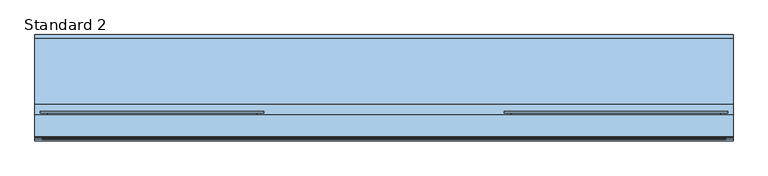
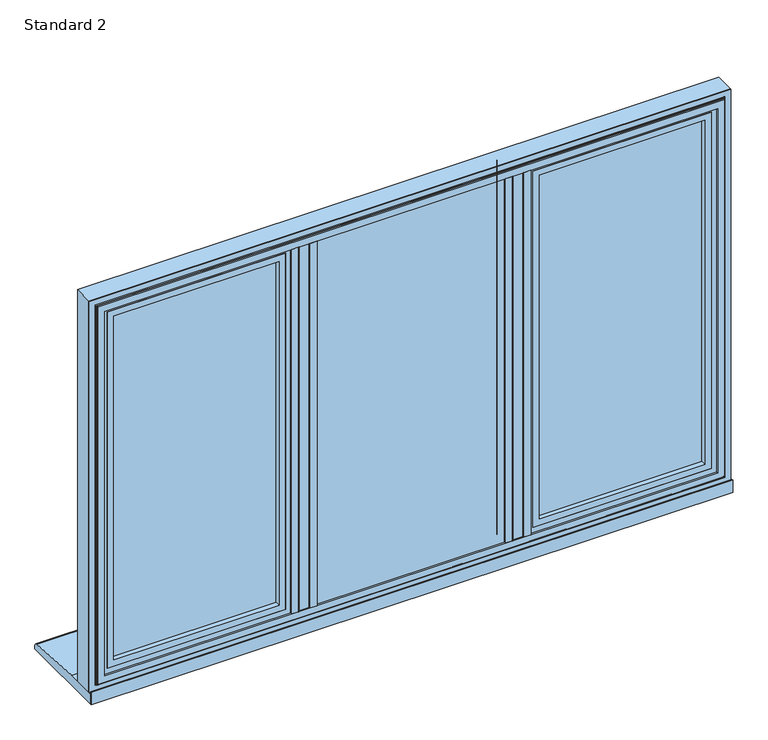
"""IFC4 building model written with IfcOpenShell, lengths in millimetres: window geometry, SMARTS_AlithermHeritage : Standard 2."""

from ifc_helpers import new_model, si_unit, point, frame, frame_2d, origin, place, context, project, spatial, polyline, circle_curve, ellipse_curve, trimmed, segment, composite_curve, outline, extrude, faceted_brep, source, transform, mapped, element, save
from ifc_brep_helpers import plane_surface, cylinder_surface, revolved_surface, advanced_brep


def standard_2_dcb44ffc(model_context):
    return source(origin(), model_context, "Body", "SolidModel", [
        extrude(outline(polyline([(-260.3608122, 95.2798432), (-232.9725211, 95.2798432), (-232.9725211, 47.279476), (-260.3608122, 47.279476), (-260.3608122, 95.2798432)])), frame((0.0, 0.0, 652.6941456), z_axis=(0.0, 0.0, 1.0), x_axis=(1.0, 0.0, 0.0)), (0.0, 0.0, 1.0), 919.6117089),
        extrude(outline(composite_curve([segment(polyline([(-275.6666667, 47.279476), (-217.6666667, 47.279476), (-217.6666667, 43.2798432), (-233.6666667, 43.2798432)]), True, "CONTINUOUS"), segment(trimmed(circle_curve(frame_2d((-233.6666667, 44.2798432)), 1.0), [point((-233.6666667, 43.2798432))], [point((-234.6666667, 44.2798432))], False, "CARTESIAN"), True, "CONTINUOUS"), segment(polyline([(-234.6666667, 44.2798432), (-234.6666667, 45.7798432), (-258.6666667, 45.7798432), (-258.6666667, 44.2798432)]), True, "CONTINUOUS"), segment(trimmed(circle_curve(frame_2d((-259.6666667, 44.2798432)), 1.0), [point((-258.6666667, 44.2798432))], [point((-259.6666667, 43.2798432))], False, "CARTESIAN"), True, "CONTINUOUS"), segment(polyline([(-259.6666667, 43.2798432), (-275.6666667, 43.2798432), (-275.6666667, 47.279476)]), True, "CONTINUOUS")], self_intersect=False)), frame((0.0, 0.0, 668.0), z_axis=(0.0, 0.0, 1.0), x_axis=(1.0, 0.0, 0.0)), (0.0, 0.0, 1.0), 889.0),
        extrude(outline(polyline([(232.9725211, 95.2798432), (260.3608122, 95.2798432), (260.3608122, 47.279476), (232.9725211, 47.279476), (232.9725211, 95.2798432)])), frame((0.0, 0.0, 652.6941456), z_axis=(0.0, 0.0, 1.0), x_axis=(1.0, 0.0, 0.0)), (0.0, 0.0, 1.0), 919.6117089),
        extrude(outline(composite_curve([segment(polyline([(217.6666667, 47.279476), (275.6666667, 47.279476), (275.6666667, 43.2798432), (259.6666667, 43.2798432)]), True, "CONTINUOUS"), segment(trimmed(circle_curve(frame_2d((259.6666667, 44.2798432)), 1.0), [point((259.6666667, 43.2798432))], [point((258.6666667, 44.2798432))], False, "CARTESIAN"), True, "CONTINUOUS"), segment(polyline([(258.6666667, 44.2798432), (258.6666667, 45.7798432), (234.6666667, 45.7798432), (234.6666667, 44.2798432)]), True, "CONTINUOUS"), segment(trimmed(circle_curve(frame_2d((233.6666667, 44.2798432)), 1.0), [point((234.6666667, 44.2798432))], [point((233.6666667, 43.2798432))], False, "CARTESIAN"), True, "CONTINUOUS"), segment(polyline([(233.6666667, 43.2798432), (217.6666667, 43.2798432), (217.6666667, 47.279476)]), True, "CONTINUOUS")], self_intersect=False)), frame((0.0, 0.0, 668.0), z_axis=(0.0, 0.0, 1.0), x_axis=(1.0, 0.0, 0.0)), (0.0, 0.0, 1.0), 889.0),
        extrude(outline(polyline([(-693.5, 89.2798432), (-289.1666667, 89.2798432), (-289.1666667, 85.2798432), (-693.5, 85.2798432), (-693.5, 89.2798432)])), frame((0.0, 0.0, 681.5), z_axis=(0.0, 0.0, 1.0), x_axis=(1.0, 0.0, 0.0)), (0.0, 0.0, 1.0), 862.0),
        extrude(outline(polyline([(-693.5, 69.2798432), (-289.1666667, 69.2798432), (-289.1666667, 65.2798432), (-693.5, 65.2798432), (-693.5, 69.2798432)])), frame((0.0, 0.0, 681.5), z_axis=(0.0, 0.0, 1.0), x_axis=(1.0, 0.0, 0.0)), (0.0, 0.0, 1.0), 862.0),
        extrude(outline(polyline([(1543.5, -693.5), (681.5, -693.5), (681.5, -289.1666667), (1543.5, -289.1666667), (1543.5, -693.5)]), holes=[polyline([(1533.5, -299.1666667), (691.5, -299.1666667), (691.5, -683.5), (1533.5, -683.5), (1533.5, -299.1666667)])]), frame((0.0, 69.2798432, 0.0), z_axis=(0.0, 1.0, 0.0), x_axis=(0.0, 0.0, 1.0)), (0.0, 0.0, 1.0), 16.0),
        extrude(outline(polyline([(1547.0052956, -697.0052956), (677.9947044, -697.0052956), (677.9947044, -285.661371), (1547.0052956, -285.661371), (1547.0052956, -697.0052956)]), holes=[polyline([(1532.0, -300.6666667), (693.0, -300.6666667), (693.0, -682.0), (1532.0, -682.0), (1532.0, -300.6666667)])]), frame((0.0, 51.2798432, 0.0), z_axis=(0.0, 1.0, 0.0), x_axis=(0.0, 0.0, 1.0)), (0.0, 0.0, 1.0), 11.3),
        extrude(outline(polyline([(662.3548042, -712.6451958), (662.3548042, -270.0214709), (1562.6451958, -270.0214709), (1562.6451958, -712.6451958), (662.3548042, -712.6451958)]), holes=[polyline([(1547.0, -697.0), (1547.0, -285.6666667), (678.0, -285.6666667), (678.0, -697.0), (1547.0, -697.0)])]), frame((0.0, 51.2798432, 0.0), z_axis=(0.0, 1.0, 0.0), x_axis=(0.0, 0.0, 1.0)), (0.0, 0.0, 1.0), 41.6),
        advanced_brep(
        [(-682.0, 98.0798432, 1532.0), (-682.0, 92.8798432, 1532.0), (-682.0, 92.8798432, 693.0), (-682.0, 98.0798432, 693.0), (-300.6666667, 92.8798432, 693.0), (-300.6666667, 98.0798432, 693.0), (-300.6666667, 92.8798432, 1532.0), (-300.6666667, 98.0798432, 1532.0), (-728.2, 99.2798432, 1578.2), (-728.2, 103.2798432, 1578.2), (-728.2, 103.2798432, 646.8), (-728.2, 99.2798432, 646.8), (-254.4666667, 103.2798432, 646.8), (-254.4666667, 99.2798432, 646.8), (-254.4666667, 103.2798432, 1578.2), (-254.4666667, 99.2798432, 1578.2), (-713.1467657, 99.2798432, 1563.1467657), (-269.5199009, 99.2798432, 1563.1467657), (-269.5199009, 99.2798432, 661.8532343), (-713.1467657, 99.2798432, 661.8532343), (-699.2, 103.2798432, 675.8), (-283.4666667, 103.2798432, 675.8), (-283.4666667, 103.2798432, 1549.2), (-699.2, 103.2798432, 1549.2), (-713.1467657, 92.8798432, 1563.1467657), (-713.1467657, 92.8798432, 661.8532343), (-269.5199009, 92.8798432, 661.8532343), (-269.5199009, 92.8798432, 1563.1467657), (-697.2, 101.2798432, 1547.2), (-697.2, 100.0798432, 1547.2), (-697.2, 100.0798432, 677.8), (-697.2, 101.2798432, 677.8), (-695.2, 98.0798432, 1545.2), (-695.2, 98.0798432, 679.8), (-285.4666667, 100.0798432, 677.8), (-285.4666667, 101.2798432, 677.8), (-287.4666667, 98.0798432, 679.8), (-285.4666667, 100.0798432, 1547.2), (-285.4666667, 101.2798432, 1547.2), (-287.4666667, 98.0798432, 1545.2)],
        [
            (0, 1),
            (1, 2),
            (2, 3),
            (3, 0),
            (2, 4),
            (4, 5),
            (5, 3),
            (4, 6),
            (6, 7),
            (7, 5),
            (6, 1),
            (0, 7),
            (8, 9),
            (9, 10),
            (10, 11),
            (11, 8),
            (10, 12),
            (12, 13),
            (13, 11),
            (12, 14),
            (14, 15),
            (15, 13),
            (15, 8),
            (16, 17),
            (17, 18),
            (18, 19),
            (19, 16),
            (14, 9),
            (20, 21),
            (21, 22),
            (22, 23),
            (23, 20),
            (24, 16),
            (19, 25),
            (25, 24),
            (18, 26),
            (26, 25),
            (17, 27),
            (27, 26),
            (27, 24),
            (28, 29),
            (29, 30),
            (30, 31),
            (31, 28),
            (29, 32, ellipse_curve(frame((-695.2, 100.0798432, 1545.2), z_axis=(0.7071067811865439, 0.0, 0.7071067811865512), x_axis=(0.7071067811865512, 0.0, -0.7071067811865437)), 2.8284271, 2.0)),
            (32, 33),
            (33, 30, ellipse_curve(frame((-695.2, 100.0798432, 679.8), z_axis=(0.7071067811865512, 0.0, -0.7071067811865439), x_axis=(-0.707106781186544, 0.0, -0.707106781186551)), 2.8284271, 2.0)),
            (30, 34),
            (34, 35),
            (35, 31),
            (33, 36),
            (36, 34, ellipse_curve(frame((-287.4666667, 100.0798432, 679.8), z_axis=(0.7071067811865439, 0.0, 0.7071067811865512), x_axis=(0.707106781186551, 0.0, -0.707106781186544)), 2.8284271, 2.0)),
            (34, 37),
            (37, 38),
            (38, 35),
            (36, 39),
            (39, 37, ellipse_curve(frame((-287.4666667, 100.0798432, 1545.2), z_axis=(-0.7071067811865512, 0.0, 0.7071067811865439), x_axis=(0.707106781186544, 0.0, 0.707106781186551)), 2.8284271, 2.0)),
            (32, 39),
            (37, 29),
            (28, 38),
            (23, 28, ellipse_curve(frame((-699.2, 101.2798432, 1549.2), z_axis=(-0.7071067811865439, 0.0, -0.7071067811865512), x_axis=(-0.7071067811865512, 0.0, 0.7071067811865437)), 2.8284271, 2.0)),
            (31, 20, ellipse_curve(frame((-699.2, 101.2798432, 675.8), z_axis=(-0.7071067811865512, 0.0, 0.7071067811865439), x_axis=(0.707106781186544, 0.0, 0.707106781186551)), 2.8284271, 2.0)),
            (35, 21, ellipse_curve(frame((-283.4666667, 101.2798432, 675.8), z_axis=(-0.7071067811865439, 0.0, -0.7071067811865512), x_axis=(-0.707106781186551, 0.0, 0.707106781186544)), 2.8284271, 2.0)),
            (38, 22, ellipse_curve(frame((-283.4666667, 101.2798432, 1549.2), z_axis=(0.7071067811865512, 0.0, -0.7071067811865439), x_axis=(-0.707106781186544, 0.0, -0.707106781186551)), 2.8284271, 2.0)),
        ],
        [
            plane_surface(frame((-682.0, 92.8798432, 1532.0), z_axis=(1.0, 0.0, 0.0), x_axis=(0.0, 0.0, -1.0))),
            plane_surface(frame((-682.0, 92.8798432, 693.0), z_axis=(0.0, 0.0, 1.0), x_axis=(1.0, 0.0, 0.0))),
            plane_surface(frame((-300.6666667, 92.8798432, 693.0), z_axis=(-1.0, 0.0, 0.0), x_axis=(0.0, 0.0, 1.0))),
            plane_surface(frame((-300.6666667, 92.8798432, 1532.0), z_axis=(0.0, 0.0, -1.0), x_axis=(-1.0, 0.0, 0.0))),
            plane_surface(frame((-728.2, 103.2798432, 1578.2), z_axis=(-1.0, 0.0, 0.0), x_axis=(0.0, 0.0, -1.0))),
            plane_surface(frame((-728.2, 103.2798432, 646.8), z_axis=(0.0, 0.0, -1.0), x_axis=(1.0, 0.0, 0.0))),
            plane_surface(frame((-254.4666667, 103.2798432, 646.8), z_axis=(1.0, 0.0, 0.0), x_axis=(0.0, 0.0, 1.0))),
            plane_surface(frame((-254.4666667, 99.2798432, 1578.2), z_axis=(0.0, -1.0, 0.0), x_axis=(-1.0, 0.0, 0.0))),
            plane_surface(frame((-254.4666667, 103.2798432, 1578.2), z_axis=(0.0, 0.0, 1.0), x_axis=(-1.0, 0.0, 0.0))),
            plane_surface(frame((-283.4666667, 103.2798432, 1549.2), z_axis=(0.0, 1.0, 0.0), x_axis=(-1.0, 0.0, 0.0))),
            plane_surface(frame((-713.1467657, 99.2798432, 1563.1467657), z_axis=(-1.0, 0.0, 0.0), x_axis=(0.0, 0.0, -1.0))),
            plane_surface(frame((-713.1467657, 99.2798432, 661.8532343), z_axis=(0.0, 0.0, -1.0), x_axis=(1.0, 0.0, 0.0))),
            plane_surface(frame((-269.5199009, 99.2798432, 661.8532343), z_axis=(1.0, 0.0, 0.0), x_axis=(0.0, 0.0, 1.0))),
            plane_surface(frame((-269.5199009, 92.8798432, 1563.1467657), z_axis=(0.0, -1.0, 0.0), x_axis=(-1.0, 0.0, 0.0))),
            plane_surface(frame((-269.5199009, 99.2798432, 1563.1467657), z_axis=(0.0, 0.0, 1.0), x_axis=(-1.0, 0.0, 0.0))),
            plane_surface(frame((-697.2, 100.0798432, 1547.2), z_axis=(1.0, 0.0, 0.0), x_axis=(0.0, 0.0, -1.0))),
            revolved_surface(polyline([(-697.2, 100.0798432, 677.8), (-697.2, 100.0798432, 1547.2)]), (-695.2, 100.0798432, 1557.0), (0.0, 0.0, -1.0)),
            plane_surface(frame((-697.2, 100.0798432, 677.8), z_axis=(0.0, 0.0, 1.0), x_axis=(1.0, 0.0, 0.0))),
            revolved_surface(polyline([(-285.4666667, 100.0798432, 677.8), (-697.2, 100.0798432, 677.8)]), (-707.0, 100.0798432, 679.8), (1.0, 0.0, 0.0)),
            plane_surface(frame((-285.4666667, 100.0798432, 677.8), z_axis=(-1.0, 0.0, 0.0), x_axis=(0.0, 0.0, 1.0))),
            revolved_surface(polyline([(-285.4666667, 100.0798432, 1547.2), (-285.4666667, 100.0798432, 677.8)]), (-287.4666667, 100.0798432, 668.0), (0.0, 0.0, 1.0)),
            plane_surface(frame((-300.6666667, 98.0798432, 1532.0), z_axis=(0.0, 1.0, 0.0), x_axis=(-1.0, 0.0, 0.0))),
            plane_surface(frame((-285.4666667, 100.0798432, 1547.2), z_axis=(0.0, 0.0, -1.0), x_axis=(-1.0, 0.0, 0.0))),
            revolved_surface(polyline([(-697.2, 100.0798432, 1547.2), (-285.4666667, 100.0798432, 1547.2)]), (-275.6666667, 100.0798432, 1545.2), (-1.0, 0.0, 0.0)),
            cylinder_surface(frame((-699.2, 101.2798432, 1557.0), z_axis=(0.0, 0.0, 1.0), x_axis=(-1.0, 0.0, 0.0)), 2.0),
            cylinder_surface(frame((-707.0, 101.2798432, 675.8), z_axis=(-1.0, 0.0, 0.0), x_axis=(0.0, 0.0, -1.0)), 2.0),
            cylinder_surface(frame((-283.4666667, 101.2798432, 668.0), z_axis=(0.0, 0.0, -1.0), x_axis=(1.0, 0.0, 0.0)), 2.0),
            cylinder_surface(frame((-275.6666667, 101.2798432, 1549.2), z_axis=(1.0, 0.0, 0.0), x_axis=(0.0, 0.0, 1.0)), 2.0),
        ],
        [
            (0, [[1, 2, 3, 4]]),
            (1, [[-3, 5, 6, 7]]),
            (2, [[-6, 8, 9, 10]]),
            (3, [[-9, 11, -1, 12]]),
            (4, [[13, 14, 15, 16]]),
            (5, [[-15, 17, 18, 19]]),
            (6, [[-18, 20, 21, 22]]),
            (7, [[-19, -22, 23, -16], [24, 25, 26, 27]]),
            (8, [[-21, 28, -13, -23]]),
            (9, [[-28, -20, -17, -14], [29, 30, 31, 32]]),
            (10, [[33, -27, 34, 35]]),
            (11, [[-34, -26, 36, 37]]),
            (12, [[-36, -25, 38, 39]]),
            (13, [[-37, -39, 40, -35], [-11, -8, -5, -2]]),
            (14, [[-38, -24, -33, -40]]),
            (15, [[41, 42, 43, 44]]),
            (16, [[45, 46, 47, -42]]),
            (17, [[-43, 48, 49, 50]]),
            (18, [[-47, 51, 52, -48]]),
            (19, [[-49, 53, 54, 55]]),
            (20, [[-52, 56, 57, -53]]),
            (21, [[58, -56, -51, -46], [-7, -10, -12, -4]]),
            (22, [[-54, 59, -41, 60]]),
            (23, [[-57, -58, -45, -59]]),
            (24, [[61, -44, 62, -32]]),
            (25, [[-62, -50, 63, -29]]),
            (26, [[-63, -55, 64, -30]]),
            (27, [[-64, -60, -61, -31]]),
        ],
    ),
        extrude(outline(polyline([(-227.6666667, 75.2798432), (227.6666667, 75.2798432), (227.6666667, 71.2798432), (-227.6666667, 71.2798432), (-227.6666667, 75.2798432)])), frame((0.0, 0.0, 658.0), z_axis=(0.0, 0.0, 1.0), x_axis=(1.0, 0.0, 0.0)), (0.0, 0.0, 1.0), 909.0),
        extrude(outline(polyline([(-227.6666667, 55.2798432), (227.6666667, 55.2798432), (227.6666667, 51.2798432), (-227.6666667, 51.2798432), (-227.6666667, 55.2798432)])), frame((0.0, 0.0, 658.0), z_axis=(0.0, 0.0, 1.0), x_axis=(1.0, 0.0, 0.0)), (0.0, 0.0, 1.0), 909.0),
        extrude(outline(polyline([(1567.0, -227.6666667), (658.0, -227.6666667), (658.0, 227.6666667), (1567.0, 227.6666667), (1567.0, -227.6666667)]), holes=[polyline([(1557.0, 217.6666667), (668.0, 217.6666667), (668.0, -217.6666667), (1557.0, -217.6666667), (1557.0, 217.6666667)])]), frame((0.0, 55.2798432, 0.0), z_axis=(0.0, 1.0, 0.0), x_axis=(0.0, 0.0, 1.0)), (0.0, 0.0, 1.0), 16.0),
        faceted_brep([(227.4815515, 95.2798432, 1566.8148849), (217.6666667, 78.2798098, 1557.0), (-217.6666667, 78.2798098, 1557.0), (-227.4815515, 95.2798432, 1566.8148849), (233.0369343, 78.2798098, 1572.3702676), (233.0369343, 95.2798432, 1572.3702676), (-233.0369343, 95.2798432, 1572.3702676), (-233.0369343, 78.2798098, 1572.3702676), (-233.0369343, 78.2798098, 652.6297324), (-233.0369343, 95.2798432, 652.6297324), (233.0369343, 95.2798432, 652.6297324), (233.0369343, 78.2798098, 652.6297324), (-227.4815515, 95.2798432, 658.1851151), (227.4815515, 95.2798432, 658.1851151), (217.6666667, 78.2798098, 668.0), (-217.6666667, 78.2798098, 668.0)], [[[0, 1, 2, 3]], [[4, 5, 6, 7]], [[8, 9, 10, 11]], [[5, 10, 9, 6], [3, 12, 13, 0]], [[7, 8, 11, 4], [1, 14, 15, 2]], [[3, 2, 15, 12]], [[7, 6, 9, 8]], [[12, 15, 14, 13]], [[13, 14, 1, 0]], [[11, 10, 5, 4]]]),
        extrude(outline(polyline([(1590.0, 740.0), (1590.0, -740.0), (635.0, -740.0), (635.0, 740.0), (1590.0, 740.0)]), holes=[polyline([(652.7000182, 722.2999818), (652.7000182, -722.2999818), (1572.2999818, -722.2999818), (1572.2999818, 722.2999818), (652.7000182, 722.2999818)])]), frame((0.0, 50.279857, 0.0), z_axis=(0.0, 1.0, 0.0), x_axis=(0.0, 0.0, 1.0)), (0.0, 0.0, 1.0), 44.9999962),
        advanced_brep(
        [(707.0, 43.2798432, 1557.0), (707.0, 47.2798432, 1557.0), (707.0, 47.2798432, 668.0), (707.0, 43.2798432, 668.0), (740.0, 50.279857, 1590.0), (740.0, 48.279857, 1590.0), (740.0, 48.279857, 635.0), (740.0, 50.279857, 635.0), (722.4999818, 43.2798432, 1572.4999818), (-722.4999818, 43.2798432, 1572.4999818), (-722.4999818, 43.2798432, 652.5000182), (722.4999818, 43.2798432, 652.5000182), (-707.0, 43.2798432, 668.0), (-707.0, 43.2798432, 1557.0), (-740.0, 50.279857, 1590.0), (-740.0, 48.279857, 1590.0), (-740.0, 50.279857, 635.0), (722.2999818, 50.279857, 1572.2999818), (-722.2999818, 50.279857, 1572.2999818), (-722.2999818, 50.279857, 652.7000182), (722.2999818, 50.279857, 652.7000182), (-707.0, 47.2798432, 1557.0), (-707.0, 47.2798432, 668.0), (-740.0, 48.279857, 635.0), (-722.2999818, 47.2798432, 1572.2999818), (722.2999818, 47.2798432, 1572.2999818), (722.2999818, 47.2798432, 652.7000182), (724.4999818, 46.779857, 650.5000182), (724.4999818, 45.2798432, 650.5000182), (-724.4999818, 45.2798432, 650.5000182), (-724.4999818, 46.779857, 650.5000182), (724.4999818, 46.779857, 1574.4999818), (724.4999818, 45.2798432, 1574.4999818), (-722.2999818, 47.2798432, 652.7000182), (-724.4999818, 45.2798432, 1574.4999818), (-724.4999818, 46.779857, 1574.4999818), (725.9999818, 48.279857, 1575.9999818), (725.9999818, 48.279857, 649.0000182), (-725.9999818, 48.279857, 649.0000182), (-725.9999818, 48.279857, 1575.9999818)],
        [
            (0, 1),
            (1, 2),
            (2, 3),
            (3, 0),
            (4, 5),
            (5, 6),
            (6, 7),
            (7, 4),
            (8, 9),
            (9, 10),
            (10, 11),
            (11, 8),
            (3, 12),
            (12, 13),
            (13, 0),
            (14, 15),
            (15, 5),
            (4, 14),
            (7, 16),
            (16, 14),
            (17, 18),
            (18, 19),
            (19, 20),
            (20, 17),
            (13, 21),
            (21, 1),
            (2, 22),
            (22, 12),
            (22, 21),
            (6, 23),
            (23, 16),
            (23, 15),
            (24, 18),
            (17, 25),
            (25, 24),
            (20, 26),
            (26, 25),
            (27, 28),
            (28, 29),
            (29, 30),
            (30, 27),
            (31, 32),
            (32, 28),
            (27, 31),
            (19, 33),
            (33, 26),
            (24, 33),
            (29, 34),
            (34, 35),
            (35, 30),
            (34, 32),
            (31, 35),
            (36, 31, ellipse_curve(frame((725.9999818, 46.779857, 1575.9999818), z_axis=(-0.7071067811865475, 0.0, 0.7071067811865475), x_axis=(-0.7071067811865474, 0.0, -0.7071067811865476)), 2.1213203, 1.5)),
            (27, 37, ellipse_curve(frame((725.9999818, 46.779857, 649.0000182), z_axis=(-0.7071067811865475, 0.0, -0.7071067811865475), x_axis=(0.7071067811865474, 0.0, -0.7071067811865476)), 2.1213203, 1.5)),
            (37, 36),
            (30, 38, ellipse_curve(frame((-725.9999818, 46.779857, 649.0000182), z_axis=(-0.7071067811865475, 0.0, 0.7071067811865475), x_axis=(-0.7071067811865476, 0.0, -0.7071067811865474)), 2.1213203, 1.5)),
            (38, 37),
            (35, 39, ellipse_curve(frame((-725.9999818, 46.779857, 1575.9999818), z_axis=(0.7071067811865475, 0.0, 0.7071067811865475), x_axis=(-0.7071067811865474, 0.0, 0.7071067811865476)), 2.1213203, 1.5)),
            (39, 38),
            (36, 39),
            (32, 8, ellipse_curve(frame((722.4999818, 45.2798432, 1572.4999818), z_axis=(0.7071067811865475, 0.0, -0.7071067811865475), x_axis=(0.7071067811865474, 0.0, 0.7071067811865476)), 2.8284271, 2.0)),
            (11, 28, ellipse_curve(frame((722.4999818, 45.2798432, 652.5000182), z_axis=(0.7071067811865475, 0.0, 0.7071067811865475), x_axis=(-0.7071067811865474, 0.0, 0.7071067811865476)), 2.8284271, 2.0)),
            (10, 29, ellipse_curve(frame((-722.4999818, 45.2798432, 652.5000182), z_axis=(0.7071067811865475, 0.0, -0.7071067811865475), x_axis=(0.7071067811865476, 0.0, 0.7071067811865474)), 2.8284271, 2.0)),
            (9, 34, ellipse_curve(frame((-722.4999818, 45.2798432, 1572.4999818), z_axis=(-0.7071067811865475, 0.0, -0.7071067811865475), x_axis=(0.7071067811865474, 0.0, -0.7071067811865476)), 2.8284271, 2.0)),
        ],
        [
            plane_surface(frame((707.0, 47.2798432, 1557.0), z_axis=(-1.0, 0.0, 0.0), x_axis=(0.0, 0.0, -1.0))),
            plane_surface(frame((740.0, 48.279857, 1590.0), z_axis=(1.0, 0.0, 0.0), x_axis=(0.0, 0.0, -1.0))),
            plane_surface(frame((-707.0, 43.2798432, 1557.0), z_axis=(0.0, -1.0, 0.0), x_axis=(1.0, 0.0, 0.0))),
            plane_surface(frame((-740.0, 48.279857, 1590.0), z_axis=(0.0, 0.0, 1.0), x_axis=(1.0, 0.0, 0.0))),
            plane_surface(frame((-740.0, 50.279857, 1590.0), z_axis=(0.0, 1.0, 0.0), x_axis=(1.0, 0.0, 0.0))),
            plane_surface(frame((-707.0, 47.2798432, 1557.0), z_axis=(0.0, 0.0, -1.0), x_axis=(1.0, 0.0, 0.0))),
            plane_surface(frame((707.0, 47.2798432, 668.0), z_axis=(0.0, 0.0, 1.0), x_axis=(-1.0, 0.0, 0.0))),
            plane_surface(frame((-707.0, 47.2798432, 668.0), z_axis=(1.0, 0.0, 0.0), x_axis=(0.0, 0.0, 1.0))),
            plane_surface(frame((740.0, 48.279857, 635.0), z_axis=(0.0, 0.0, -1.0), x_axis=(-1.0, 0.0, 0.0))),
            plane_surface(frame((-740.0, 48.279857, 635.0), z_axis=(-1.0, 0.0, 0.0), x_axis=(0.0, 0.0, 1.0))),
            plane_surface(frame((-722.2999818, 50.279857, 1572.2999818), z_axis=(0.0, 0.0, -1.0), x_axis=(1.0, 0.0, 0.0))),
            plane_surface(frame((722.2999818, 50.279857, 1572.2999818), z_axis=(-1.0, 0.0, 0.0), x_axis=(0.0, 0.0, -1.0))),
            plane_surface(frame((724.4999818, 45.2798432, 650.5000182), z_axis=(0.0, 0.0, -1.0), x_axis=(-1.0, 0.0, 0.0))),
            plane_surface(frame((724.4999818, 45.2798432, 1574.4999818), z_axis=(1.0, 0.0, 0.0), x_axis=(0.0, 0.0, -1.0))),
            plane_surface(frame((722.2999818, 50.279857, 652.7000182), z_axis=(0.0, 0.0, 1.0), x_axis=(-1.0, 0.0, 0.0))),
            plane_surface(frame((-722.2999818, 50.279857, 652.7000182), z_axis=(1.0, 0.0, 0.0), x_axis=(0.0, 0.0, 1.0))),
            plane_surface(frame((-724.4999818, 45.2798432, 650.5000182), z_axis=(-1.0, 0.0, 0.0), x_axis=(0.0, 0.0, 1.0))),
            plane_surface(frame((-722.2999818, 47.2798432, 1572.2999818), z_axis=(0.0, 1.0, 0.0), x_axis=(1.0, 0.0, 0.0))),
            plane_surface(frame((-724.4999818, 45.2798432, 1574.4999818), z_axis=(0.0, 0.0, 1.0), x_axis=(1.0, 0.0, 0.0))),
            revolved_surface(polyline([(724.4999818, 46.779857, 647.5000182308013), (724.4999818, 46.779857, 1577.4999817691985)]), (725.9999818, 46.779857, 1590.0), (0.0, 0.0, -1.0)),
            revolved_surface(polyline([(-727.4999817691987, 46.779857, 650.5000182), (727.4999817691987, 46.779857, 650.5000182)]), (740.0, 46.779857, 649.0000182), (-1.0, 0.0, 0.0)),
            revolved_surface(polyline([(-724.4999818, 46.779857, 1577.4999817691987), (-724.4999818, 46.779857, 647.5000182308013)]), (-725.9999818, 46.779857, 635.0), (0.0, 0.0, 1.0)),
            revolved_surface(polyline([(727.4999817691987, 46.779857, 1574.4999818), (-727.4999817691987, 46.779857, 1574.4999818)]), (-740.0, 46.779857, 1575.9999818), (1.0, 0.0, 0.0)),
            plane_surface(frame((-725.9999818, 48.279857, 1575.9999818), z_axis=(0.0, -1.0, 0.0), x_axis=(1.0, 0.0, 0.0))),
            cylinder_surface(frame((722.4999818, 45.2798432, 1590.0), z_axis=(0.0, 0.0, 1.0), x_axis=(-1.0, 0.0, 0.0)), 2.0),
            cylinder_surface(frame((740.0, 45.2798432, 652.5000182), z_axis=(1.0, 0.0, 0.0), x_axis=(0.0, 0.0, 1.0)), 2.0),
            cylinder_surface(frame((-722.4999818, 45.2798432, 635.0), z_axis=(0.0, 0.0, -1.0), x_axis=(1.0, 0.0, 0.0)), 2.0),
            cylinder_surface(frame((-740.0, 45.2798432, 1572.4999818), z_axis=(-1.0, 0.0, 0.0), x_axis=(0.0, 0.0, -1.0)), 2.0),
        ],
        [
            (0, [[1, 2, 3, 4]]),
            (1, [[5, 6, 7, 8]]),
            (2, [[9, 10, 11, 12], [13, 14, 15, -4]]),
            (3, [[16, 17, -5, 18]]),
            (4, [[19, 20, -18, -8], [21, 22, 23, 24]]),
            (5, [[25, 26, -1, -15]]),
            (6, [[-3, 27, 28, -13]]),
            (7, [[-28, 29, -25, -14]]),
            (8, [[-7, 30, 31, -19]]),
            (9, [[-31, 32, -16, -20]]),
            (10, [[33, -21, 34, 35]]),
            (11, [[-34, -24, 36, 37]]),
            (12, [[38, 39, 40, 41]]),
            (13, [[42, 43, -38, 44]]),
            (14, [[-36, -23, 45, 46]]),
            (15, [[-45, -22, -33, 47]]),
            (16, [[-40, 48, 49, 50]]),
            (17, [[-46, -47, -35, -37], [-26, -29, -27, -2]]),
            (18, [[-49, 51, -42, 52]]),
            (19, [[53, -44, 54, 55]]),
            (20, [[-54, -41, 56, 57]]),
            (21, [[-56, -50, 58, 59]]),
            (22, [[-58, -52, -53, 60]]),
            (23, [[-17, -32, -30, -6], [-57, -59, -60, -55]]),
            (24, [[61, -12, 62, -43]]),
            (25, [[-62, -11, 63, -39]]),
            (26, [[-63, -10, 64, -48]]),
            (27, [[-64, -9, -61, -51]]),
        ],
    ),
        extrude(outline(polyline([(289.1666667, 89.2798432), (693.5, 89.2798432), (693.5, 85.2798432), (289.1666667, 85.2798432), (289.1666667, 89.2798432)])), frame((0.0, 0.0, 681.5), z_axis=(0.0, 0.0, 1.0), x_axis=(1.0, 0.0, 0.0)), (0.0, 0.0, 1.0), 862.0),
        extrude(outline(polyline([(289.1666667, 69.2798432), (693.5, 69.2798432), (693.5, 65.2798432), (289.1666667, 65.2798432), (289.1666667, 69.2798432)])), frame((0.0, 0.0, 681.5), z_axis=(0.0, 0.0, 1.0), x_axis=(1.0, 0.0, 0.0)), (0.0, 0.0, 1.0), 862.0),
        extrude(outline(polyline([(1543.5, 289.1666667), (681.5, 289.1666667), (681.5, 693.5), (1543.5, 693.5), (1543.5, 289.1666667)]), holes=[polyline([(1533.5, 683.5), (691.5, 683.5), (691.5, 299.1666667), (1533.5, 299.1666667), (1533.5, 683.5)])]), frame((0.0, 69.2798432, 0.0), z_axis=(0.0, 1.0, 0.0), x_axis=(0.0, 0.0, 1.0)), (0.0, 0.0, 1.0), 16.0),
        extrude(outline(polyline([(1547.0052956, 285.661371), (677.9947044, 285.661371), (677.9947044, 697.0052956), (1547.0052956, 697.0052956), (1547.0052956, 285.661371)]), holes=[polyline([(1532.0, 682.0), (693.0, 682.0), (693.0, 300.6666667), (1532.0, 300.6666667), (1532.0, 682.0)])]), frame((0.0, 51.2798432, 0.0), z_axis=(0.0, 1.0, 0.0), x_axis=(0.0, 0.0, 1.0)), (0.0, 0.0, 1.0), 11.3),
        extrude(outline(polyline([(662.3548042, 270.0214709), (662.3548042, 712.6451958), (1562.6451958, 712.6451958), (1562.6451958, 270.0214709), (662.3548042, 270.0214709)]), holes=[polyline([(1547.0, 285.6666667), (1547.0, 697.0), (678.0, 697.0), (678.0, 285.6666667), (1547.0, 285.6666667)])]), frame((0.0, 51.2798432, 0.0), z_axis=(0.0, 1.0, 0.0), x_axis=(0.0, 0.0, 1.0)), (0.0, 0.0, 1.0), 41.6),
        advanced_brep(
        [(300.6666667, 98.0798432, 1532.0), (300.6666667, 92.8798432, 1532.0), (300.6666667, 92.8798432, 693.0), (300.6666667, 98.0798432, 693.0), (682.0, 92.8798432, 693.0), (682.0, 98.0798432, 693.0), (682.0, 92.8798432, 1532.0), (682.0, 98.0798432, 1532.0), (254.4666667, 99.2798432, 1578.2), (254.4666667, 103.2798432, 1578.2), (254.4666667, 103.2798432, 646.8), (254.4666667, 99.2798432, 646.8), (728.2, 103.2798432, 646.8), (728.2, 99.2798432, 646.8), (728.2, 103.2798432, 1578.2), (728.2, 99.2798432, 1578.2), (269.5199009, 99.2798432, 1563.1467657), (713.1467657, 99.2798432, 1563.1467657), (713.1467657, 99.2798432, 661.8532343), (269.5199009, 99.2798432, 661.8532343), (283.4666667, 103.2798432, 675.8), (699.2, 103.2798432, 675.8), (699.2, 103.2798432, 1549.2), (283.4666667, 103.2798432, 1549.2), (269.5199009, 92.8798432, 1563.1467657), (269.5199009, 92.8798432, 661.8532343), (713.1467657, 92.8798432, 661.8532343), (713.1467657, 92.8798432, 1563.1467657), (285.4666667, 101.2798432, 1547.2), (285.4666667, 100.0798432, 1547.2), (285.4666667, 100.0798432, 677.8), (285.4666667, 101.2798432, 677.8), (287.4666667, 98.0798432, 1545.2), (287.4666667, 98.0798432, 679.8), (697.2, 100.0798432, 677.8), (697.2, 101.2798432, 677.8), (695.2, 98.0798432, 679.8), (697.2, 100.0798432, 1547.2), (697.2, 101.2798432, 1547.2), (695.2, 98.0798432, 1545.2)],
        [
            (0, 1),
            (1, 2),
            (2, 3),
            (3, 0),
            (2, 4),
            (4, 5),
            (5, 3),
            (4, 6),
            (6, 7),
            (7, 5),
            (6, 1),
            (0, 7),
            (8, 9),
            (9, 10),
            (10, 11),
            (11, 8),
            (10, 12),
            (12, 13),
            (13, 11),
            (12, 14),
            (14, 15),
            (15, 13),
            (15, 8),
            (16, 17),
            (17, 18),
            (18, 19),
            (19, 16),
            (14, 9),
            (20, 21),
            (21, 22),
            (22, 23),
            (23, 20),
            (24, 16),
            (19, 25),
            (25, 24),
            (18, 26),
            (26, 25),
            (17, 27),
            (27, 26),
            (27, 24),
            (28, 29),
            (29, 30),
            (30, 31),
            (31, 28),
            (29, 32, ellipse_curve(frame((287.4666667, 100.0798432, 1545.2), z_axis=(0.7071067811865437, 0.0, 0.7071067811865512), x_axis=(0.7071067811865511, 0.0, -0.7071067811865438)), 2.8284271, 2.0)),
            (32, 33),
            (33, 30, ellipse_curve(frame((287.4666667, 100.0798432, 679.8), z_axis=(0.7071067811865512, 0.0, -0.7071067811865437), x_axis=(-0.7071067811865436, 0.0, -0.7071067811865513)), 2.8284271, 2.0)),
            (30, 34),
            (34, 35),
            (35, 31),
            (33, 36),
            (36, 34, ellipse_curve(frame((695.2, 100.0798432, 679.8), z_axis=(0.7071067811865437, 0.0, 0.7071067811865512), x_axis=(0.7071067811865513, 0.0, -0.7071067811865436)), 2.8284271, 2.0)),
            (34, 37),
            (37, 38),
            (38, 35),
            (36, 39),
            (39, 37, ellipse_curve(frame((695.2, 100.0798432, 1545.2), z_axis=(-0.7071067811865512, 0.0, 0.7071067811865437), x_axis=(0.7071067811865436, 0.0, 0.7071067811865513)), 2.8284271, 2.0)),
            (32, 39),
            (37, 29),
            (28, 38),
            (23, 28, ellipse_curve(frame((283.4666667, 101.2798432, 1549.2), z_axis=(-0.7071067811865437, 0.0, -0.7071067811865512), x_axis=(-0.7071067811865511, 0.0, 0.7071067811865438)), 2.8284271, 2.0)),
            (31, 20, ellipse_curve(frame((283.4666667, 101.2798432, 675.8), z_axis=(-0.7071067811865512, 0.0, 0.7071067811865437), x_axis=(0.7071067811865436, 0.0, 0.7071067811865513)), 2.8284271, 2.0)),
            (35, 21, ellipse_curve(frame((699.2, 101.2798432, 675.8), z_axis=(-0.7071067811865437, 0.0, -0.7071067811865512), x_axis=(-0.7071067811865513, 0.0, 0.7071067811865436)), 2.8284271, 2.0)),
            (38, 22, ellipse_curve(frame((699.2, 101.2798432, 1549.2), z_axis=(0.7071067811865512, 0.0, -0.7071067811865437), x_axis=(-0.7071067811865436, 0.0, -0.7071067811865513)), 2.8284271, 2.0)),
        ],
        [
            plane_surface(frame((300.6666667, 92.8798432, 1532.0), z_axis=(1.0, 0.0, 0.0), x_axis=(0.0, 0.0, -1.0))),
            plane_surface(frame((300.6666667, 92.8798432, 693.0), z_axis=(0.0, 0.0, 1.0), x_axis=(1.0, 0.0, 0.0))),
            plane_surface(frame((682.0, 92.8798432, 693.0), z_axis=(-1.0, 0.0, 0.0), x_axis=(0.0, 0.0, 1.0))),
            plane_surface(frame((682.0, 92.8798432, 1532.0), z_axis=(0.0, 0.0, -1.0), x_axis=(-1.0, 0.0, 0.0))),
            plane_surface(frame((254.4666667, 103.2798432, 1578.2), z_axis=(-1.0, 0.0, 0.0), x_axis=(0.0, 0.0, -1.0))),
            plane_surface(frame((254.4666667, 103.2798432, 646.8), z_axis=(0.0, 0.0, -1.0), x_axis=(1.0, 0.0, 0.0))),
            plane_surface(frame((728.2, 103.2798432, 646.8), z_axis=(1.0, 0.0, 0.0), x_axis=(0.0, 0.0, 1.0))),
            plane_surface(frame((728.2, 99.2798432, 1578.2), z_axis=(0.0, -1.0, 0.0), x_axis=(-1.0, 0.0, 0.0))),
            plane_surface(frame((728.2, 103.2798432, 1578.2), z_axis=(0.0, 0.0, 1.0), x_axis=(-1.0, 0.0, 0.0))),
            plane_surface(frame((699.2, 103.2798432, 1549.2), z_axis=(0.0, 1.0, 0.0), x_axis=(-1.0, 0.0, 0.0))),
            plane_surface(frame((269.5199009, 99.2798432, 1563.1467657), z_axis=(-1.0, 0.0, 0.0), x_axis=(0.0, 0.0, -1.0))),
            plane_surface(frame((269.5199009, 99.2798432, 661.8532343), z_axis=(0.0, 0.0, -1.0), x_axis=(1.0, 0.0, 0.0))),
            plane_surface(frame((713.1467657, 99.2798432, 661.8532343), z_axis=(1.0, 0.0, 0.0), x_axis=(0.0, 0.0, 1.0))),
            plane_surface(frame((713.1467657, 92.8798432, 1563.1467657), z_axis=(0.0, -1.0, 0.0), x_axis=(-1.0, 0.0, 0.0))),
            plane_surface(frame((713.1467657, 99.2798432, 1563.1467657), z_axis=(0.0, 0.0, 1.0), x_axis=(-1.0, 0.0, 0.0))),
            plane_surface(frame((285.4666667, 100.0798432, 1547.2), z_axis=(1.0, 0.0, 0.0), x_axis=(0.0, 0.0, -1.0))),
            revolved_surface(polyline([(285.4666667, 100.0798432, 677.8), (285.4666667, 100.0798432, 1547.2)]), (287.4666667, 100.0798432, 1557.0), (0.0, 0.0, -1.0)),
            plane_surface(frame((285.4666667, 100.0798432, 677.8), z_axis=(0.0, 0.0, 1.0), x_axis=(1.0, 0.0, 0.0))),
            revolved_surface(polyline([(697.2, 100.0798432, 677.8), (285.4666667, 100.0798432, 677.8)]), (275.6666667, 100.0798432, 679.8), (1.0, 0.0, 0.0)),
            plane_surface(frame((697.2, 100.0798432, 677.8), z_axis=(-1.0, 0.0, 0.0), x_axis=(0.0, 0.0, 1.0))),
            revolved_surface(polyline([(697.2, 100.0798432, 1547.2), (697.2, 100.0798432, 677.8)]), (695.2, 100.0798432, 668.0), (0.0, 0.0, 1.0)),
            plane_surface(frame((682.0, 98.0798432, 1532.0), z_axis=(0.0, 1.0, 0.0), x_axis=(-1.0, 0.0, 0.0))),
            plane_surface(frame((697.2, 100.0798432, 1547.2), z_axis=(0.0, 0.0, -1.0), x_axis=(-1.0, 0.0, 0.0))),
            revolved_surface(polyline([(285.4666667, 100.0798432, 1547.2), (697.2, 100.0798432, 1547.2)]), (707.0, 100.0798432, 1545.2), (-1.0, 0.0, 0.0)),
            cylinder_surface(frame((283.4666667, 101.2798432, 1557.0), z_axis=(0.0, 0.0, 1.0), x_axis=(-1.0, 0.0, 0.0)), 2.0),
            cylinder_surface(frame((275.6666667, 101.2798432, 675.8), z_axis=(-1.0, 0.0, 0.0), x_axis=(0.0, 0.0, -1.0)), 2.0),
            cylinder_surface(frame((699.2, 101.2798432, 668.0), z_axis=(0.0, 0.0, -1.0), x_axis=(1.0, 0.0, 0.0)), 2.0),
            cylinder_surface(frame((707.0, 101.2798432, 1549.2), z_axis=(1.0, 0.0, 0.0), x_axis=(0.0, 0.0, 1.0)), 2.0),
        ],
        [
            (0, [[1, 2, 3, 4]]),
            (1, [[-3, 5, 6, 7]]),
            (2, [[-6, 8, 9, 10]]),
            (3, [[-9, 11, -1, 12]]),
            (4, [[13, 14, 15, 16]]),
            (5, [[-15, 17, 18, 19]]),
            (6, [[-18, 20, 21, 22]]),
            (7, [[-19, -22, 23, -16], [24, 25, 26, 27]]),
            (8, [[-21, 28, -13, -23]]),
            (9, [[-28, -20, -17, -14], [29, 30, 31, 32]]),
            (10, [[33, -27, 34, 35]]),
            (11, [[-34, -26, 36, 37]]),
            (12, [[-36, -25, 38, 39]]),
            (13, [[-37, -39, 40, -35], [-11, -8, -5, -2]]),
            (14, [[-38, -24, -33, -40]]),
            (15, [[41, 42, 43, 44]]),
            (16, [[45, 46, 47, -42]]),
            (17, [[-43, 48, 49, 50]]),
            (18, [[-47, 51, 52, -48]]),
            (19, [[-49, 53, 54, 55]]),
            (20, [[-52, 56, 57, -53]]),
            (21, [[58, -56, -51, -46], [-7, -10, -12, -4]]),
            (22, [[-54, 59, -41, 60]]),
            (23, [[-57, -58, -45, -59]]),
            (24, [[61, -44, 62, -32]]),
            (25, [[-62, -50, 63, -29]]),
            (26, [[-63, -55, 64, -30]]),
            (27, [[-64, -60, -61, -31]]),
        ],
    ),
        extrude(outline(polyline([(740.0, 43.2798432), (740.0, 40.7798432), (-740.0, 40.7798432), (-740.0, 43.2798432), (740.0, 43.2798432)])), frame((0.0, 0.0, 610.0), z_axis=(0.0, 0.0, 1.0), x_axis=(1.0, 0.0, 0.0)), (0.0, 0.0, 1.0), 31.0),
        extrude(outline(composite_curve([segment(polyline([(265.7798432, 610.0), (43.2798432, 610.0), (43.2798432, 635.0), (118.7798432, 635.0), (258.4770891, 625.9276664)]), True, "CONTINUOUS"), segment(trimmed(circle_curve(frame_2d((257.7798432, 617.9581088)), 8.0), [point((258.4770891, 625.9276664))], [point((265.7798432, 617.9581088))], False, "CARTESIAN"), True, "CONTINUOUS"), segment(polyline([(265.7798432, 617.9581088), (265.7798432, 610.0)]), True, "CONTINUOUS")], self_intersect=False)), frame((-740.0, 0.0, 0.0), z_axis=(1.0, 0.0, 0.0), x_axis=(0.0, 1.0, 0.0)), (0.0, 0.0, 1.0), 1480.0),
    ])


if __name__ == "__main__":
    model = new_model("IFC4")
    model_context = context("Model", 3, world=origin())
    ifc_project = project(units=[si_unit("LENGTHUNIT", "METRE", prefix="MILLI")], contexts=[model_context])
    site = spatial("IfcSite", under=ifc_project)
    building = spatial("IfcBuilding", under=site)
    placement = place(None, origin())
    standard_2_shape = standard_2_dcb44ffc(model_context)
    element("IfcWindow", 1, ObjectType="SMARTS_AlithermHeritage : Standard 2", at=placement, inside=building, context=model_context, shape_type="MappedRepresentation", body=[
        mapped(standard_2_shape, transform((0.0, 0.0, 0.0), x_axis=(1.0, 0.0, 0.0), y_axis=(0.0, 1.0, 0.0), z_axis=(0.0, 0.0, 1.0))),
    ])
    save(model, "model.ifc")
